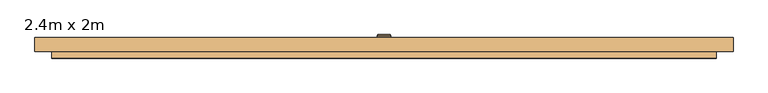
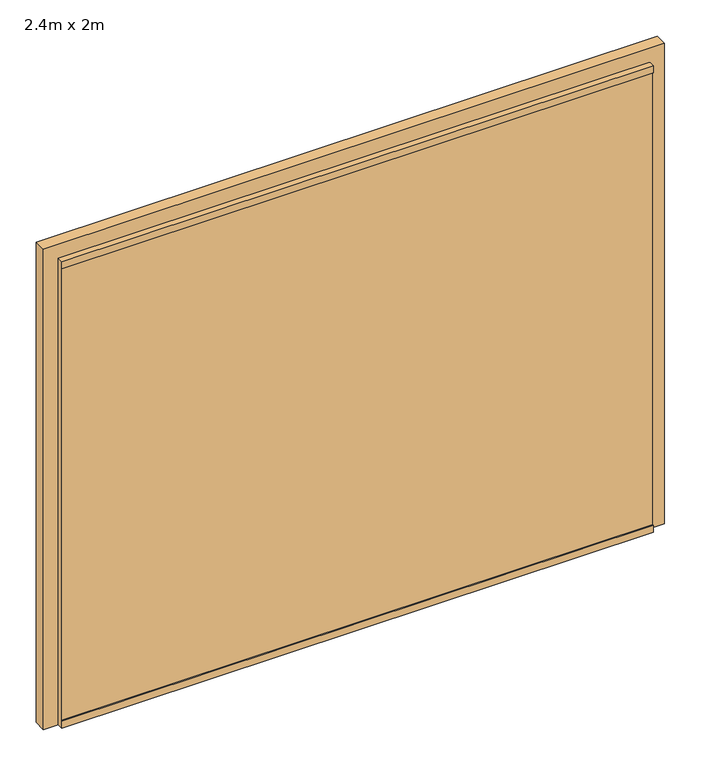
"""IFC4 building model written with IfcOpenShell, lengths in millimetres: door geometry, Garage basculante : 2.4m x 2m."""

from ifc_helpers import new_model, si_unit, frame, origin, place, context, project, spatial, polyline, circle_curve, outline, extrude, faceted_brep, source, transform, mapped, element, save
from ifc_brep_helpers import plane_surface, cylinder_surface, revolved_surface, advanced_brep


def door_2_4m_x_2m_ca442cef(model_context):
    return source(origin(), model_context, "Body", "SolidModel", [
        advanced_brep(
        [(-37.902088, -383.5523258, 500.0), (7.902088, -383.5523258, 500.0), (10.0, -385.6502378, 500.0), (-40.0, -385.6502378, 500.0), (-15.0, -383.5523258, 500.0), (-40.0, -423.5523258, 500.0), (10.0, -423.5523258, 500.0), (-15.0, -423.5523258, 500.0)],
        [
            (0, 1, circle_curve(frame((-15.0, -383.5523258, 500.0), z_axis=(0.0, -1.0, 0.0), x_axis=(1.0, 0.0, 0.0)), 22.902088)),
            (1, 2),
            (2, 3, circle_curve(frame((-15.0, -385.6502378, 500.0), z_axis=(0.0, 1.0, 0.0), x_axis=(1.0, 0.0, 0.0)), 25.0)),
            (3, 0),
            (1, 0, circle_curve(frame((-15.0, -383.5523258, 500.0), z_axis=(0.0, -1.0, 0.0), x_axis=(1.0, 0.0, 0.0)), 22.902088)),
            (3, 2, circle_curve(frame((-15.0, -385.6502378, 500.0), z_axis=(0.0, 1.0, 0.0), x_axis=(1.0, 0.0, 0.0)), 25.0)),
            (4, 1),
            (0, 4),
            (5, 6, circle_curve(frame((-15.0, -423.5523258, 500.0), z_axis=(0.0, -1.0, 0.0), x_axis=(1.0, 0.0, 0.0)), 25.0)),
            (6, 7),
            (7, 5),
            (6, 5, circle_curve(frame((-15.0, -423.5523258, 500.0), z_axis=(0.0, -1.0, 0.0), x_axis=(1.0, 0.0, 0.0)), 25.0)),
            (2, 6),
            (5, 3),
        ],
        [
            revolved_surface(polyline([(10.0, -385.6502378, 500.0), (7.902088, -383.5523258, 500.0)]), (-15.0, 971.1651436, 500.0), (0.0, 1.0, 0.0)),
            plane_surface(frame((-15.0, -383.5523258, 500.0), z_axis=(0.0, 1.0, 0.0), x_axis=(1.0, 0.0, 0.0))),
            plane_surface(frame((-15.0, -423.5523258, 500.0), z_axis=(0.0, -1.0, 0.0), x_axis=(1.0, 0.0, 0.0))),
            cylinder_surface(frame((-15.0, 971.1651436, 500.0), z_axis=(0.0, 1.0, 0.0), x_axis=(1.0, 0.0, 0.0)), 25.0),
        ],
        [
            (0, [[1, 2, 3, 4]]),
            (0, [[5, -4, 6, -2]]),
            (1, [[7, -1, 8]]),
            (1, [[-8, -5, -7]]),
            (2, [[9, 10, 11]]),
            (2, [[12, -11, -10]]),
            (3, [[-3, 13, -9, 14]]),
            (3, [[-6, -14, -12, -13]]),
        ],
    ),
        faceted_brep([(-1215.0, -468.5523258, 2000.0), (1185.0, -468.5523258, 2000.0), (1185.0, -418.5523258, 2000.0), (-1215.0, -418.5523258, 2000.0), (1185.0, -468.5523258, 0.0), (-1215.0, -468.5523258, 0.0), (-1215.0, -418.5523258, 0.0), (1185.0, -418.5523258, 0.0), (1117.5806452, -433.5523258, 1970.0), (1117.5806452, -433.5523258, 30.0), (1097.5806452, -433.5523258, 30.0), (1097.5806452, -433.5523258, 1970.0), (1097.5806452, -423.5523258, 30.0), (1097.5806452, -423.5523258, 1970.0), (1040.1612903, -423.5523258, 30.0), (1040.1612903, -423.5523258, 1970.0), (1040.1612903, -433.5523258, 30.0), (1040.1612903, -433.5523258, 1970.0), (1020.1612903, -433.5523258, 30.0), (1020.1612903, -433.5523258, 1970.0), (1020.1612903, -423.5523258, 30.0), (1020.1612903, -423.5523258, 1970.0), (962.7419355, -423.5523258, 30.0), (962.7419355, -423.5523258, 1970.0), (962.7419355, -433.5523258, 30.0), (962.7419355, -433.5523258, 1970.0), (942.7419355, -433.5523258, 30.0), (942.7419355, -433.5523258, 1970.0), (942.7419355, -423.5523258, 30.0), (942.7419355, -423.5523258, 1970.0), (885.3225806, -423.5523258, 30.0), (885.3225806, -423.5523258, 1970.0), (885.3225806, -433.5523258, 30.0), (885.3225806, -433.5523258, 1970.0), (865.3225806, -433.5523258, 30.0), (865.3225806, -433.5523258, 1970.0), (865.3225806, -423.5523258, 30.0), (865.3225806, -423.5523258, 1970.0), (807.9032258, -423.5523258, 30.0), (807.9032258, -423.5523258, 1970.0), (807.9032258, -433.5523258, 30.0), (807.9032258, -433.5523258, 1970.0), (787.9032258, -433.5523258, 30.0), (787.9032258, -433.5523258, 1970.0), (787.9032258, -423.5523258, 30.0), (787.9032258, -423.5523258, 1970.0), (730.483871, -423.5523258, 30.0), (730.483871, -423.5523258, 1970.0), (730.483871, -433.5523258, 30.0), (730.483871, -433.5523258, 1970.0), (710.483871, -433.5523258, 30.0), (710.483871, -433.5523258, 1970.0), (710.483871, -423.5523258, 30.0), (710.483871, -423.5523258, 1970.0), (653.0645161, -423.5523258, 30.0), (653.0645161, -423.5523258, 1970.0), (653.0645161, -433.5523258, 30.0), (653.0645161, -433.5523258, 1970.0), (633.0645161, -433.5523258, 30.0), (633.0645161, -433.5523258, 1970.0), (633.0645161, -423.5523258, 30.0), (633.0645161, -423.5523258, 1970.0), (575.6451613, -423.5523258, 30.0), (575.6451613, -423.5523258, 1970.0), (575.6451613, -433.5523258, 30.0), (575.6451613, -433.5523258, 1970.0), (555.6451613, -433.5523258, 30.0), (555.6451613, -433.5523258, 1970.0), (555.6451613, -423.5523258, 30.0), (555.6451613, -423.5523258, 1970.0), (498.2258065, -423.5523258, 30.0), (498.2258065, -423.5523258, 1970.0), (498.2258065, -433.5523258, 30.0), (498.2258065, -433.5523258, 1970.0), (478.2258065, -433.5523258, 30.0), (478.2258065, -433.5523258, 1970.0), (478.2258065, -423.5523258, 30.0), (478.2258065, -423.5523258, 1970.0), (420.8064516, -423.5523258, 30.0), (420.8064516, -423.5523258, 1970.0), (420.8064516, -433.5523258, 30.0), (420.8064516, -433.5523258, 1970.0), (400.8064516, -433.5523258, 30.0), (400.8064516, -433.5523258, 1970.0), (400.8064516, -423.5523258, 30.0), (400.8064516, -423.5523258, 1970.0), (343.3870968, -423.5523258, 30.0), (343.3870968, -423.5523258, 1970.0), (343.3870968, -433.5523258, 30.0), (343.3870968, -433.5523258, 1970.0), (323.3870968, -433.5523258, 30.0), (323.3870968, -433.5523258, 1970.0), (323.3870968, -423.5523258, 30.0), (323.3870968, -423.5523258, 1970.0), (265.9677419, -423.5523258, 30.0), (265.9677419, -423.5523258, 1970.0), (265.9677419, -433.5523258, 30.0), (265.9677419, -433.5523258, 1970.0), (245.9677419, -433.5523258, 30.0), (245.9677419, -433.5523258, 1970.0), (245.9677419, -423.5523258, 30.0), (245.9677419, -423.5523258, 1970.0), (188.5483871, -423.5523258, 30.0), (188.5483871, -423.5523258, 1970.0), (188.5483871, -433.5523258, 30.0), (188.5483871, -433.5523258, 1970.0), (168.5483871, -433.5523258, 30.0), (168.5483871, -433.5523258, 1970.0), (168.5483871, -423.5523258, 30.0), (168.5483871, -423.5523258, 1970.0), (111.1290323, -423.5523258, 30.0), (111.1290323, -423.5523258, 1970.0), (111.1290323, -433.5523258, 30.0), (111.1290323, -433.5523258, 1970.0), (91.1290323, -433.5523258, 30.0), (91.1290323, -433.5523258, 1970.0), (91.1290323, -423.5523258, 30.0), (91.1290323, -423.5523258, 1970.0), (33.7096774, -423.5523258, 30.0), (33.7096774, -423.5523258, 1970.0), (33.7096774, -433.5523258, 30.0), (33.7096774, -433.5523258, 1970.0), (13.7096774, -433.5523258, 30.0), (13.7096774, -433.5523258, 1970.0), (13.7096774, -423.5523258, 30.0), (13.7096774, -423.5523258, 1970.0), (-43.7096774, -423.5523258, 30.0), (-43.7096774, -423.5523258, 1970.0), (-43.7096774, -433.5523258, 30.0), (-43.7096774, -433.5523258, 1970.0), (-63.7096774, -433.5523258, 30.0), (-63.7096774, -433.5523258, 1970.0), (-63.7096774, -423.5523258, 30.0), (-63.7096774, -423.5523258, 1970.0), (-121.1290323, -423.5523258, 30.0), (-121.1290323, -423.5523258, 1970.0), (-121.1290323, -433.5523258, 30.0), (-121.1290323, -433.5523258, 1970.0), (-141.1290323, -433.5523258, 30.0), (-141.1290323, -433.5523258, 1970.0), (-141.1290323, -423.5523258, 30.0), (-141.1290323, -423.5523258, 1970.0), (-198.5483871, -423.5523258, 30.0), (-198.5483871, -423.5523258, 1970.0), (-198.5483871, -433.5523258, 30.0), (-198.5483871, -433.5523258, 1970.0), (-218.5483871, -433.5523258, 30.0), (-218.5483871, -433.5523258, 1970.0), (-218.5483871, -423.5523258, 30.0), (-218.5483871, -423.5523258, 1970.0), (-275.9677419, -423.5523258, 30.0), (-275.9677419, -423.5523258, 1970.0), (-275.9677419, -433.5523258, 30.0), (-275.9677419, -433.5523258, 1970.0), (-295.9677419, -433.5523258, 30.0), (-295.9677419, -433.5523258, 1970.0), (-295.9677419, -423.5523258, 30.0), (-295.9677419, -423.5523258, 1970.0), (-353.3870968, -423.5523258, 30.0), (-353.3870968, -423.5523258, 1970.0), (-353.3870968, -433.5523258, 30.0), (-353.3870968, -433.5523258, 1970.0), (-373.3870968, -433.5523258, 30.0), (-373.3870968, -433.5523258, 1970.0), (-373.3870968, -423.5523258, 30.0), (-373.3870968, -423.5523258, 1970.0), (-430.8064516, -423.5523258, 30.0), (-430.8064516, -423.5523258, 1970.0), (-430.8064516, -433.5523258, 30.0), (-430.8064516, -433.5523258, 1970.0), (-450.8064516, -433.5523258, 30.0), (-450.8064516, -433.5523258, 1970.0), (-450.8064516, -423.5523258, 30.0), (-450.8064516, -423.5523258, 1970.0), (-508.2258065, -423.5523258, 30.0), (-508.2258065, -423.5523258, 1970.0), (-508.2258065, -433.5523258, 30.0), (-508.2258065, -433.5523258, 1970.0), (-528.2258065, -433.5523258, 30.0), (-528.2258065, -433.5523258, 1970.0), (-528.2258065, -423.5523258, 30.0), (-528.2258065, -423.5523258, 1970.0), (-585.6451613, -423.5523258, 30.0), (-585.6451613, -423.5523258, 1970.0), (-585.6451613, -433.5523258, 30.0), (-585.6451613, -433.5523258, 1970.0), (-605.6451613, -433.5523258, 30.0), (-605.6451613, -433.5523258, 1970.0), (-605.6451613, -423.5523258, 30.0), (-605.6451613, -423.5523258, 1970.0), (-663.0645161, -423.5523258, 30.0), (-663.0645161, -423.5523258, 1970.0), (-663.0645161, -433.5523258, 30.0), (-663.0645161, -433.5523258, 1970.0), (-683.0645161, -433.5523258, 30.0), (-683.0645161, -433.5523258, 1970.0), (-683.0645161, -423.5523258, 30.0), (-683.0645161, -423.5523258, 1970.0), (-740.483871, -423.5523258, 30.0), (-740.483871, -423.5523258, 1970.0), (-740.483871, -433.5523258, 30.0), (-740.483871, -433.5523258, 1970.0), (-760.483871, -433.5523258, 30.0), (-760.483871, -433.5523258, 1970.0), (-760.483871, -423.5523258, 30.0), (-760.483871, -423.5523258, 1970.0), (-817.9032258, -423.5523258, 30.0), (-817.9032258, -423.5523258, 1970.0), (-817.9032258, -433.5523258, 30.0), (-817.9032258, -433.5523258, 1970.0), (-837.9032258, -433.5523258, 30.0), (-837.9032258, -433.5523258, 1970.0), (-837.9032258, -423.5523258, 30.0), (-837.9032258, -423.5523258, 1970.0), (-895.3225806, -423.5523258, 30.0), (-895.3225806, -423.5523258, 1970.0), (-895.3225806, -433.5523258, 30.0), (-895.3225806, -433.5523258, 1970.0), (-915.3225806, -433.5523258, 30.0), (-915.3225806, -433.5523258, 1970.0), (-915.3225806, -423.5523258, 30.0), (-915.3225806, -423.5523258, 1970.0), (-972.7419355, -423.5523258, 30.0), (-972.7419355, -423.5523258, 1970.0), (-972.7419355, -433.5523258, 30.0), (-972.7419355, -433.5523258, 1970.0), (-992.7419355, -433.5523258, 30.0), (-992.7419355, -433.5523258, 1970.0), (-992.7419355, -423.5523258, 30.0), (-992.7419355, -423.5523258, 1970.0), (-1050.1612903, -423.5523258, 30.0), (-1050.1612903, -423.5523258, 1970.0), (-1050.1612903, -433.5523258, 30.0), (-1050.1612903, -433.5523258, 1970.0), (-1070.1612903, -433.5523258, 30.0), (-1070.1612903, -433.5523258, 1970.0), (-1070.1612903, -423.5523258, 30.0), (-1070.1612903, -423.5523258, 1970.0), (-1127.5806452, -423.5523258, 30.0), (-1127.5806452, -423.5523258, 1970.0), (-1127.5806452, -433.5523258, 30.0), (-1127.5806452, -433.5523258, 1970.0), (-1147.5806452, -433.5523258, 30.0), (-1147.5806452, -433.5523258, 1970.0), (-1147.5806452, -423.5523258, 30.0), (-1147.5806452, -423.5523258, 1970.0), (-1215.0, -423.5523258, 30.0), (-1215.0, -423.5523258, 1970.0), (-1215.0, -418.5523258, 1970.0), (-1215.0, -418.5523258, 30.0), (-1215.0, -468.5523258, 30.0), (-1215.0, -463.5523258, 30.0), (-1215.0, -463.5523258, 1970.0), (-1215.0, -468.5523258, 1970.0), (1185.0, -463.5523258, 30.0), (1185.0, -463.5523258, 1970.0), (1185.0, -468.5523258, 1970.0), (1185.0, -468.5523258, 30.0), (1185.0, -418.5523258, 30.0), (1185.0, -423.5523258, 30.0), (1185.0, -423.5523258, 1970.0), (1185.0, -418.5523258, 1970.0), (1117.5806452, -423.5523258, 30.0), (1117.5806452, -423.5523258, 1970.0)], [[[0, 1, 2, 3]], [[4, 5, 6, 7]], [[8, 9, 10, 11]], [[11, 10, 12, 13]], [[13, 12, 14, 15]], [[15, 14, 16, 17]], [[17, 16, 18, 19]], [[19, 18, 20, 21]], [[21, 20, 22, 23]], [[23, 22, 24, 25]], [[25, 24, 26, 27]], [[27, 26, 28, 29]], [[29, 28, 30, 31]], [[31, 30, 32, 33]], [[33, 32, 34, 35]], [[35, 34, 36, 37]], [[37, 36, 38, 39]], [[39, 38, 40, 41]], [[41, 40, 42, 43]], [[43, 42, 44, 45]], [[45, 44, 46, 47]], [[47, 46, 48, 49]], [[49, 48, 50, 51]], [[51, 50, 52, 53]], [[53, 52, 54, 55]], [[55, 54, 56, 57]], [[57, 56, 58, 59]], [[59, 58, 60, 61]], [[61, 60, 62, 63]], [[63, 62, 64, 65]], [[65, 64, 66, 67]], [[67, 66, 68, 69]], [[69, 68, 70, 71]], [[71, 70, 72, 73]], [[73, 72, 74, 75]], [[75, 74, 76, 77]], [[77, 76, 78, 79]], [[79, 78, 80, 81]], [[81, 80, 82, 83]], [[83, 82, 84, 85]], [[85, 84, 86, 87]], [[87, 86, 88, 89]], [[89, 88, 90, 91]], [[91, 90, 92, 93]], [[93, 92, 94, 95]], [[95, 94, 96, 97]], [[97, 96, 98, 99]], [[99, 98, 100, 101]], [[101, 100, 102, 103]], [[103, 102, 104, 105]], [[105, 104, 106, 107]], [[107, 106, 108, 109]], [[109, 108, 110, 111]], [[111, 110, 112, 113]], [[113, 112, 114, 115]], [[115, 114, 116, 117]], [[117, 116, 118, 119]], [[119, 118, 120, 121]], [[121, 120, 122, 123]], [[123, 122, 124, 125]], [[125, 124, 126, 127]], [[127, 126, 128, 129]], [[129, 128, 130, 131]], [[131, 130, 132, 133]], [[133, 132, 134, 135]], [[135, 134, 136, 137]], [[137, 136, 138, 139]], [[139, 138, 140, 141]], [[141, 140, 142, 143]], [[143, 142, 144, 145]], [[145, 144, 146, 147]], [[147, 146, 148, 149]], [[149, 148, 150, 151]], [[151, 150, 152, 153]], [[153, 152, 154, 155]], [[155, 154, 156, 157]], [[157, 156, 158, 159]], [[159, 158, 160, 161]], [[161, 160, 162, 163]], [[163, 162, 164, 165]], [[165, 164, 166, 167]], [[167, 166, 168, 169]], [[169, 168, 170, 171]], [[171, 170, 172, 173]], [[173, 172, 174, 175]], [[175, 174, 176, 177]], [[177, 176, 178, 179]], [[179, 178, 180, 181]], [[181, 180, 182, 183]], [[183, 182, 184, 185]], [[185, 184, 186, 187]], [[187, 186, 188, 189]], [[189, 188, 190, 191]], [[191, 190, 192, 193]], [[193, 192, 194, 195]], [[195, 194, 196, 197]], [[197, 196, 198, 199]], [[199, 198, 200, 201]], [[201, 200, 202, 203]], [[203, 202, 204, 205]], [[205, 204, 206, 207]], [[207, 206, 208, 209]], [[209, 208, 210, 211]], [[211, 210, 212, 213]], [[213, 212, 214, 215]], [[215, 214, 216, 217]], [[217, 216, 218, 219]], [[219, 218, 220, 221]], [[221, 220, 222, 223]], [[223, 222, 224, 225]], [[225, 224, 226, 227]], [[227, 226, 228, 229]], [[229, 228, 230, 231]], [[231, 230, 232, 233]], [[233, 232, 234, 235]], [[235, 234, 236, 237]], [[237, 236, 238, 239]], [[239, 238, 240, 241]], [[241, 240, 242, 243]], [[243, 242, 244, 245]], [[245, 244, 246, 247]], [[0, 3, 248, 247, 246, 249, 6, 5, 250, 251, 252, 253]], [[252, 251, 254, 255]], [[2, 1, 256, 255, 254, 257, 4, 7, 258, 259, 260, 261]], [[260, 259, 262, 263]], [[9, 8, 263, 262]], [[256, 253, 252, 255]], [[248, 261, 260, 263, 8, 11, 13, 15, 17, 19, 21, 23, 25, 27, 29, 31, 33, 35, 37, 39, 41, 43, 45, 47, 49, 51, 53, 55, 57, 59, 61, 63, 65, 67, 69, 71, 73, 75, 77, 79, 81, 83, 85, 87, 89, 91, 93, 95, 97, 99, 101, 103, 105, 107, 109, 111, 113, 115, 117, 119, 121, 123, 125, 127, 129, 131, 133, 135, 137, 139, 141, 143, 145, 147, 149, 151, 153, 155, 157, 159, 161, 163, 165, 167, 169, 171, 173, 175, 177, 179, 181, 183, 185, 187, 189, 191, 193, 195, 197, 199, 201, 203, 205, 207, 209, 211, 213, 215, 217, 219, 221, 223, 225, 227, 229, 231, 233, 235, 237, 239, 241, 243, 245, 247]], [[2, 261, 248, 3]], [[256, 1, 0, 253]], [[4, 257, 250, 5]], [[258, 7, 6, 249]], [[250, 257, 254, 251]], [[258, 249, 246, 244, 242, 240, 238, 236, 234, 232, 230, 228, 226, 224, 222, 220, 218, 216, 214, 212, 210, 208, 206, 204, 202, 200, 198, 196, 194, 192, 190, 188, 186, 184, 182, 180, 178, 176, 174, 172, 170, 168, 166, 164, 162, 160, 158, 156, 154, 152, 150, 148, 146, 144, 142, 140, 138, 136, 134, 132, 130, 128, 126, 124, 122, 120, 118, 116, 114, 112, 110, 108, 106, 104, 102, 100, 98, 96, 94, 92, 90, 88, 86, 84, 82, 80, 78, 76, 74, 72, 70, 68, 66, 64, 62, 60, 58, 56, 54, 52, 50, 48, 46, 44, 42, 40, 38, 36, 34, 32, 30, 28, 26, 24, 22, 20, 18, 16, 14, 12, 10, 9, 262, 259]]]),
        extrude(outline(polyline([(0.0, -1275.0), (0.0, -1215.0), (2000.0, -1215.0), (2000.0, 1185.0), (0.0, 1185.0), (0.0, 1245.0), (2060.0, 1245.0), (2060.0, -1275.0), (0.0, -1275.0)])), frame((0.0, -443.5523258, 0.0), z_axis=(0.0, 1.0, 0.0), x_axis=(0.0, 0.0, 1.0)), (0.0, 0.0, 1.0), 50.0),
    ])


if __name__ == "__main__":
    model = new_model("IFC4")
    model_context = context("Model", 3, world=origin())
    ifc_project = project(units=[si_unit("LENGTHUNIT", "METRE", prefix="MILLI")], contexts=[model_context])
    site = spatial("IfcSite", under=ifc_project)
    building = spatial("IfcBuilding", under=site)
    placement = place(None, origin())
    door_2_4m_x_2m_shape = door_2_4m_x_2m_ca442cef(model_context)
    element("IfcDoor", 1, ObjectType="Garage basculante : 2.4m x 2m", at=placement, inside=building, context=model_context, shape_type="MappedRepresentation", body=[
        mapped(door_2_4m_x_2m_shape, transform((0.0, 0.0, 0.0), x_axis=(1.0, 0.0, 0.0), y_axis=(0.0, 1.0, 0.0), z_axis=(0.0, 0.0, 1.0))),
    ])
    save(model, "model.ifc")
